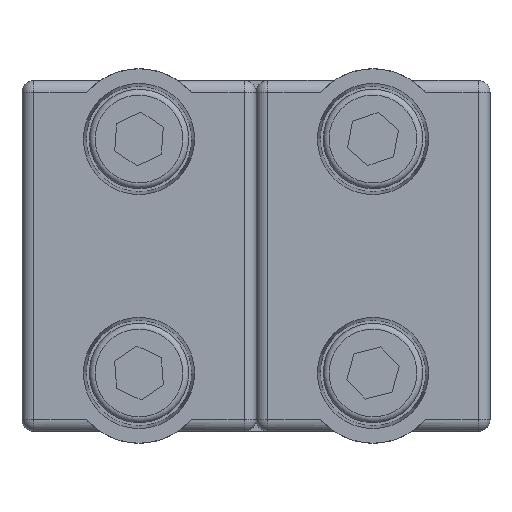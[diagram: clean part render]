
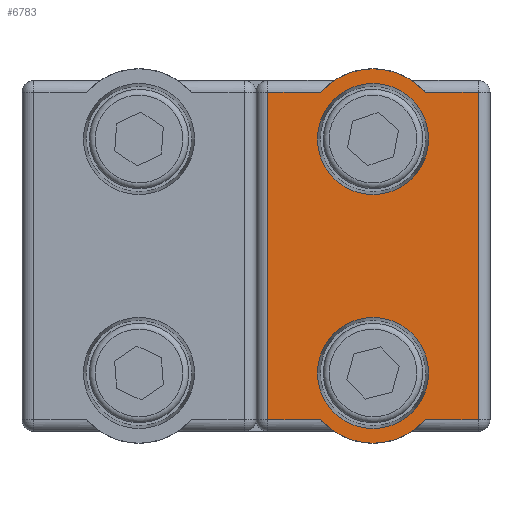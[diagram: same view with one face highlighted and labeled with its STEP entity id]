
A CAD part, front view. The second image highlights one B-rep face of the part: STEP entity #6783.
In plain terms, the highlighted planar face has unit normal (0, -1, 0).
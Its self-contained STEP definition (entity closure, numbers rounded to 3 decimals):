
#326=LINE('',#9451,#695);
#329=LINE('',#9478,#698);
#330=LINE('',#9482,#699);
#331=LINE('',#9484,#700);
#332=LINE('',#9486,#701);
#333=LINE('',#9490,#702);
#695=VECTOR('',#8030,1000.);
#698=VECTOR('',#8063,1000.);
#699=VECTOR('',#8066,1000.);
#700=VECTOR('',#8067,1000.);
#701=VECTOR('',#8068,1000.);
#702=VECTOR('',#8071,1000.);
#973=PLANE('',#7192);
#1512=ORIENTED_EDGE('',*,*,#2512,.T.);
#1513=ORIENTED_EDGE('',*,*,#2511,.T.);
#1514=ORIENTED_EDGE('',*,*,#2544,.T.);
#1515=ORIENTED_EDGE('',*,*,#2545,.F.);
#1516=ORIENTED_EDGE('',*,*,#2546,.T.);
#1517=ORIENTED_EDGE('',*,*,#2547,.T.);
#1518=ORIENTED_EDGE('',*,*,#2548,.T.);
#1519=ORIENTED_EDGE('',*,*,#2549,.F.);
#1520=ORIENTED_EDGE('',*,*,#2550,.T.);
#1521=ORIENTED_EDGE('',*,*,#2532,.T.);
#2511=EDGE_CURVE('',#3059,#3059,#3387,.T.);
#2512=EDGE_CURVE('',#3060,#3060,#3388,.T.);
#2532=EDGE_CURVE('',#3077,#3080,#326,.F.);
#2544=EDGE_CURVE('',#3080,#3090,#329,.F.);
#2545=EDGE_CURVE('',#3091,#3090,#3408,.T.);
#2546=EDGE_CURVE('',#3091,#3092,#330,.F.);
#2547=EDGE_CURVE('',#3092,#3093,#331,.F.);
#2548=EDGE_CURVE('',#3093,#3094,#332,.F.);
#2549=EDGE_CURVE('',#3095,#3094,#3409,.T.);
#2550=EDGE_CURVE('',#3095,#3077,#333,.F.);
#3059=VERTEX_POINT('',#9398);
#3060=VERTEX_POINT('',#9401);
#3077=VERTEX_POINT('',#9445);
#3080=VERTEX_POINT('',#9450);
#3090=VERTEX_POINT('',#9479);
#3091=VERTEX_POINT('',#9481);
#3092=VERTEX_POINT('',#9483);
#3093=VERTEX_POINT('',#9485);
#3094=VERTEX_POINT('',#9487);
#3095=VERTEX_POINT('',#9489);
#3387=CIRCLE('',#7155,4.75);
#3388=CIRCLE('',#7157,4.75);
#3408=CIRCLE('',#7193,6.);
#3409=CIRCLE('',#7194,6.);
#3686=EDGE_LOOP('',(#1512));
#3687=EDGE_LOOP('',(#1513));
#3688=EDGE_LOOP('',(#1514,#1515,#1516,#1517,#1518,#1519,#1520,#1521));
#4120=FACE_BOUND('',#3686,.T.);
#4121=FACE_BOUND('',#3687,.T.);
#4122=FACE_BOUND('',#3688,.T.);
#6783=ADVANCED_FACE('',(#4120,#4121,#4122),#973,.F.);
#7155=AXIS2_PLACEMENT_3D('',#9397,#7975,#7976);
#7157=AXIS2_PLACEMENT_3D('',#9400,#7979,#7980);
#7192=AXIS2_PLACEMENT_3D('',#9477,#8061,#8062);
#7193=AXIS2_PLACEMENT_3D('',#9480,#8064,#8065);
#7194=AXIS2_PLACEMENT_3D('',#9488,#8069,#8070);
#7975=DIRECTION('',(0.,1.,0.));
#7976=DIRECTION('',(1.,0.,0.));
#7979=DIRECTION('',(0.,1.,0.));
#7980=DIRECTION('',(1.,0.,0.));
#8030=DIRECTION('',(0.,0.,-1.));
#8061=DIRECTION('',(0.,1.,0.));
#8062=DIRECTION('',(0.,0.,1.));
#8063=DIRECTION('',(1.,0.,0.));
#8064=DIRECTION('',(0.,1.,0.));
#8065=DIRECTION('',(1.,0.,0.));
#8066=DIRECTION('',(1.,0.,0.));
#8067=DIRECTION('',(0.,0.,1.));
#8068=DIRECTION('',(-1.,0.,0.));
#8069=DIRECTION('',(0.,1.,0.));
#8070=DIRECTION('',(1.,0.,0.));
#8071=DIRECTION('',(-1.,0.,0.));
#9397=CARTESIAN_POINT('',(10.05,-25.,25.001));
#9398=CARTESIAN_POINT('',(14.8,-25.,25.001));
#9400=CARTESIAN_POINT('',(10.05,-25.,5.));
#9401=CARTESIAN_POINT('',(14.8,-25.,5.));
#9445=CARTESIAN_POINT('',(19.05,-25.,1.001));
#9450=CARTESIAN_POINT('',(19.05,-25.,29.001));
#9451=CARTESIAN_POINT('',(19.05,-25.,5.));
#9477=CARTESIAN_POINT('',(10.05,-25.,5.));
#9478=CARTESIAN_POINT('',(10.05,-25.,29.001));
#9479=CARTESIAN_POINT('',(14.522,-25.,29.001));
#9480=CARTESIAN_POINT('',(10.05,-25.,25.001));
#9481=CARTESIAN_POINT('',(5.578,-25.,29.001));
#9482=CARTESIAN_POINT('',(10.05,-25.,29.001));
#9483=CARTESIAN_POINT('',(1.05,-25.,29.001));
#9484=CARTESIAN_POINT('',(1.05,-25.,5.));
#9485=CARTESIAN_POINT('',(1.05,-25.,1.001));
#9486=CARTESIAN_POINT('',(10.05,-25.,1.001));
#9487=CARTESIAN_POINT('',(5.577,-25.,1.001));
#9488=CARTESIAN_POINT('',(10.05,-25.,5.));
#9489=CARTESIAN_POINT('',(14.523,-25.,1.001));
#9490=CARTESIAN_POINT('',(10.05,-25.,1.001));
